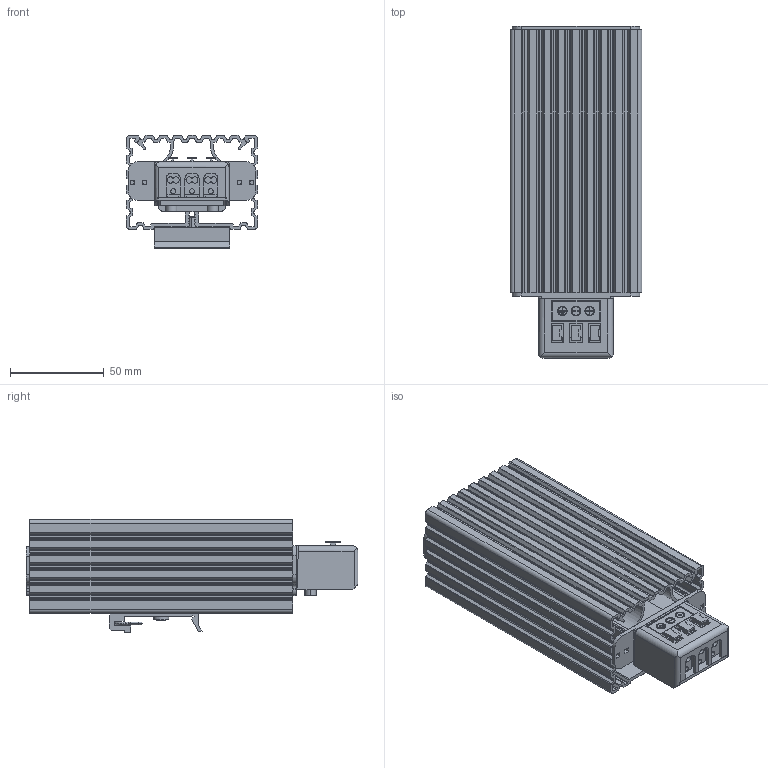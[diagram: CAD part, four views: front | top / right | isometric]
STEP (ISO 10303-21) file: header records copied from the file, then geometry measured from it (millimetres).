
FILE_DESCRIPTION (( 'STEP AP214' ), '1' );
FILE_NAME ('FLH 010-150 terminal.STEP', '2009-11-10T08:17:21', ( ' ' ), ( ' ' ), 'SwSTEP 2.0', 'SolidWorks 2009', '' );
FILE_SCHEMA (( 'AUTOMOTIVE_DESIGN' ));
Length unit declared in the file: millimetre
Products named in the file (37): Imported14; Imported19; Imported17; Imported16; Imported18; Imported15; Imported32; Imported31; Imported30; Imported35; Imported34; Imported33; Imported29; Imported28; Imported27; Imported26; Imported25; Imported24; Imported23; Imported22; Imported21; Imported20; Imported1; Imported; FLH 010-150 terminal; Imported4; Imported3; Imported2; Imported7; Imported6; Imported5; Imported10; Imported9; Imported8; Imported13; Imported12; Imported11
Assembly tree (36 placements, depth 2):
  FLH 010-150 terminal
    Imported2
    Imported19
    Imported23
    Imported1
    Imported
    Imported7
    Imported34
    Imported18
    Imported9
    Imported33
    Imported27
    Imported26
    Imported13
    Imported25
    Imported30
    Imported5
    Imported31
    Imported6
    Imported3
    Imported20
    Imported4
    Imported35
    Imported22
    Imported17
    Imported21
    Imported32
    Imported8
    Imported10
    Imported14
    Imported29
    Imported15
    Imported12
    Imported24
    Imported16
    Imported11
    Imported28
Bounding box: 70 x 176.75 x 60.2 mm (x, y, z)
Volume: 196750.2 mm3; surface area: 236940.1 mm2
Topology: 35 solids, 41 shells, 1781 faces, 4903 edges, 3230 vertices
Faces by surface type: plane 1147, cylinder 498, bspline 100, torus 32, sphere 4
Entity records: 72675 total; most frequent: CARTESIAN_POINT 25576, ORIENTED_EDGE 9754, DIRECTION 9179, EDGE_CURVE 4897, VECTOR 3489, LINE 3489, VERTEX_POINT 3226, AXIS2_PLACEMENT_3D 2845
